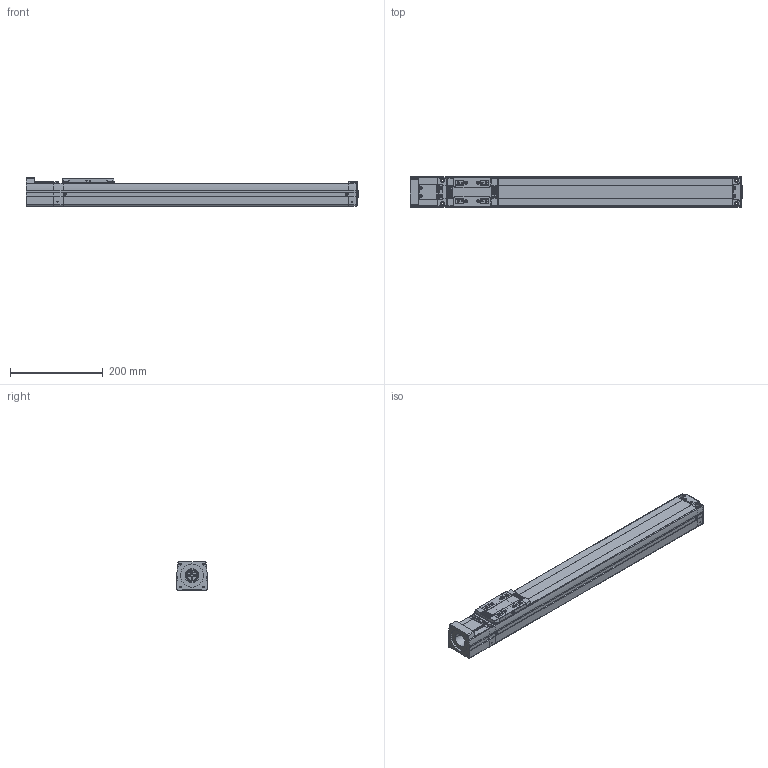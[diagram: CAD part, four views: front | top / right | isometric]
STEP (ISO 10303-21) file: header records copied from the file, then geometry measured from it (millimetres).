
FILE_DESCRIPTION(('STEP AP203'),'1');
FILE_NAME('Z:/Web/3D/SAN65/2012.ver/STP/500/SAN65ㅁㅁ-500S.stp','2014-06-13T06:34:26',(' '),(' '),'Spatial InterOp 3D',' ',' ');
FILE_SCHEMA(('CONFIG_CONTROL_DESIGN'));
Length unit declared in the file: millimetre
Products named in the file (56): 1; 2; 3; 4; 5; 6; 7; 8; 9; 10; 11; 12; 13; 14; 15; 16; 17; 18; 19; 20; 21; 22; 23; 24; 25; 26; 27; 28; 29; 30; 31; 32; 33; 34; 35; 36; 37; 38; 39; 40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
Bounding box: 716.15 x 67.13 x 62 mm (x, y, z)
Volume: 2264363.3 mm3; surface area: 273780.3 mm2
Topology: 56 solids, 56 shells, 2305 faces, 6061 edges, 3904 vertices
Faces by surface type: plane 1037, cylinder 864, cone 314, sphere 36, bspline 28, torus 20, extrusion 6
Full cylindrical faces by diameter (mm): 2.132 x1, 3.5 x2, 6 x2
Entity records: 77111 total; most frequent: CARTESIAN_POINT 16174, DIRECTION 12736, ORIENTED_EDGE 11934, EDGE_CURVE 5967, AXIS2_PLACEMENT_3D 4666, VERTEX_POINT 3903, VECTOR 3404, LINE 3398
